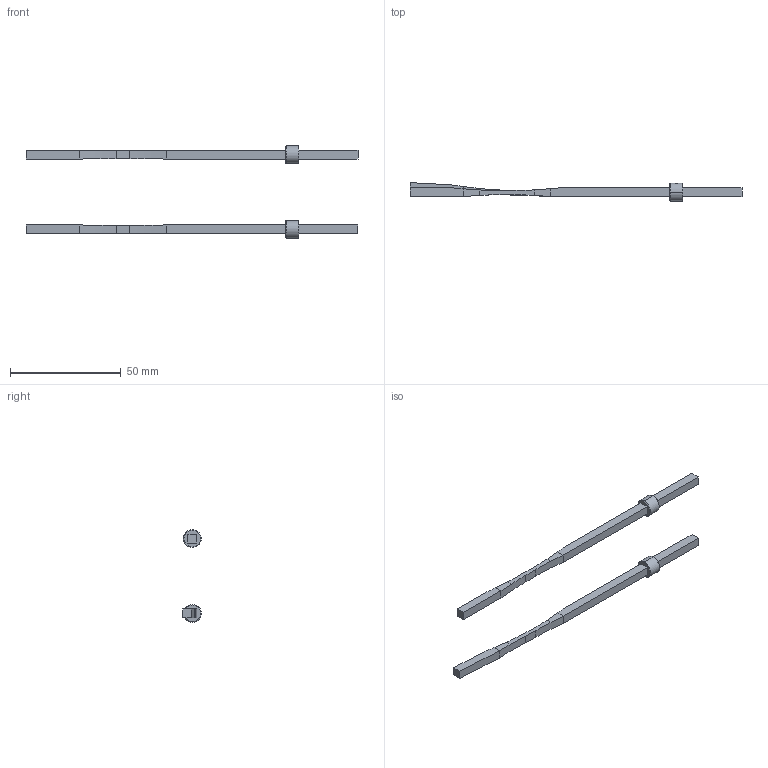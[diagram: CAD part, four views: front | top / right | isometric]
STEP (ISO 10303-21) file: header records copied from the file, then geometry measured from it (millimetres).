
FILE_DESCRIPTION (( 'STEP AP214' ), '1' );
FILE_NAME ('PF044150.STEP', '2013-07-26T14:40:38', ( '' ), ( '' ), 'SwSTEP 2.0', 'SolidWorks 2011', '' );
FILE_SCHEMA (( 'AUTOMOTIVE_DESIGN' ));
Length unit declared in the file: millimetre
Products named in the file (5): 9MP-044150-RECTA-20130117; PF-044150-20130117; 9FP040408-20130117; 9MP-044150-20130117; PF044150
Assembly tree (5 placements, depth 3):
  PF044150
    9FP040408-20130117
    9MP-044150-20130117
    PF-044150-20130117
      9FP040408-20130117
      9MP-044150-RECTA-20130117
Bounding box: 150.02 x 8.45 x 41.76 mm (x, y, z)
Volume: 4628.5 mm3; surface area: 5177.3 mm2
Topology: 4 solids, 4 shells, 74 faces, 186 edges, 118 vertices
Faces by surface type: plane 40, cylinder 22, cone 12
Entity records: 2421 total; most frequent: CARTESIAN_POINT 394, DIRECTION 308, ORIENTED_EDGE 300, EDGE_CURVE 150, AXIS2_PLACEMENT_3D 107, VERTEX_POINT 97, LINE 94, VECTOR 94
